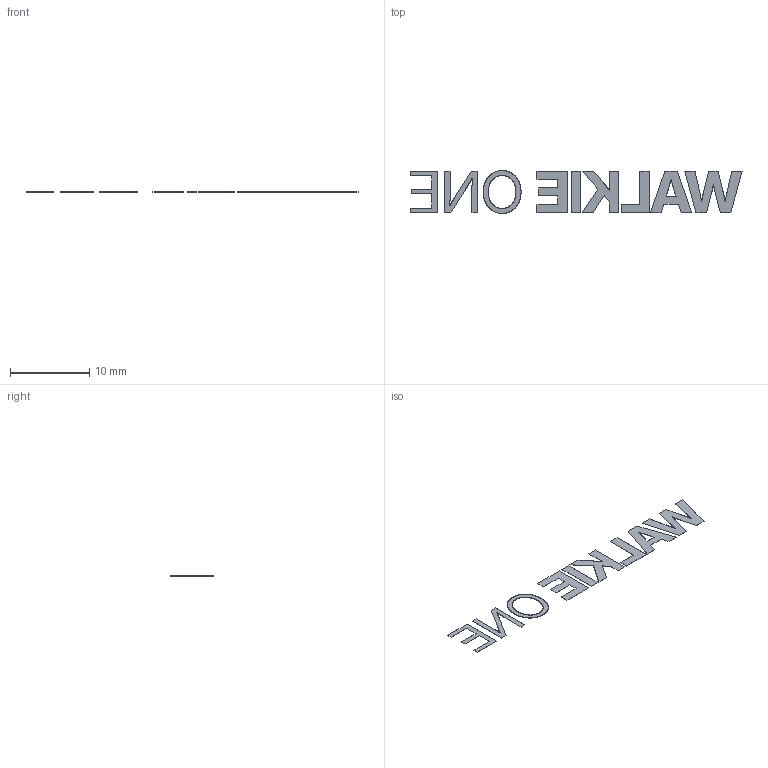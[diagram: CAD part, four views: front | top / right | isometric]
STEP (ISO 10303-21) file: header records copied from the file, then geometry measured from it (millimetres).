
FILE_DESCRIPTION(('Open CASCADE Model'),'2;1');
FILE_NAME('Open CASCADE Shape Model','2026-09-06T11:30:34',('Author'),( 'Open CASCADE'),'Open CASCADE STEP processor 7.7','Open CASCADE 7.7' ,'Unknown');
FILE_SCHEMA(('AUTOMOTIVE_DESIGN { 1 0 10303 214 1 1 1 1 }'));
Length unit declared in the file: millimetre
Products named in the file (10): Open CASCADE STEP translator 7.7 4; Open CASCADE STEP translator 7.7 4.1; Open CASCADE STEP translator 7.7 4.2; Open CASCADE STEP translator 7.7 4.3; Open CASCADE STEP translator 7.7 4.4; Open CASCADE STEP translator 7.7 4.5; Open CASCADE STEP translator 7.7 4.6; Open CASCADE STEP translator 7.7 4.7; Open CASCADE STEP translator 7.7 4.8; Open CASCADE STEP translator 7.7 4.9
Assembly tree (9 placements, depth 2):
  Open CASCADE STEP translator 7.7 4
    Open CASCADE STEP translator 7.7 4.1
    Open CASCADE STEP translator 7.7 4.2
    Open CASCADE STEP translator 7.7 4.3
    Open CASCADE STEP translator 7.7 4.4
    Open CASCADE STEP translator 7.7 4.5
    Open CASCADE STEP translator 7.7 4.6
    Open CASCADE STEP translator 7.7 4.7
    Open CASCADE STEP translator 7.7 4.8
    Open CASCADE STEP translator 7.7 4.9
Bounding box: 42 x 5.41 x 0.02 mm (x, y, z)
Volume: 2.1 mm3; surface area: 217.8 mm2
Topology: 9 solids, 9 shells, 1699 faces, 5043 edges, 3362 vertices
Faces by surface type: plane 1699
Entity records: 121380 total; most frequent: CARTESIAN_POINT 20200, DIRECTION 18547, LINE 15129, VECTOR 15129, ORIENTED_EDGE 10086, PCURVE 10086, DEFINITIONAL_REPRESENTATION 10086, EDGE_CURVE 5043
